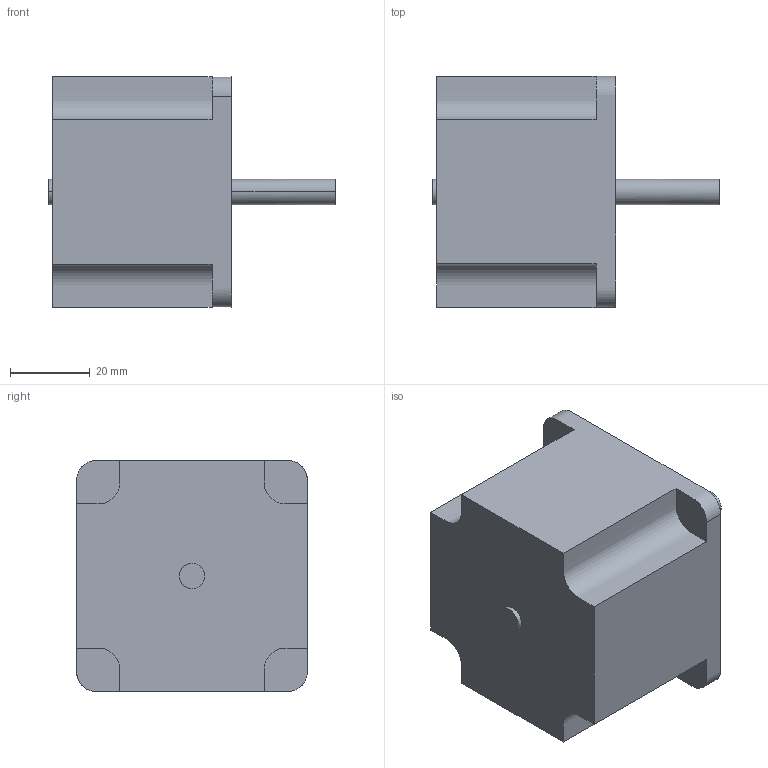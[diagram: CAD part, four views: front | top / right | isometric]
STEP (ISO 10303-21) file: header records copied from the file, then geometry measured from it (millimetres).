
FILE_DESCRIPTION(/* description */ (''),/* implementation_level */ '2;1');
FILE_NAME(/* name */ '6.y-drive#6.1#la-stpy',/* time_stamp */ '2014-12-01T20:13:58+01:00',/* author */ (''),/* organization */ (''),/* preprocessor_version */ 'ST-DEVELOPER v14',/* originating_system */ '',/* authorisation */ '');
FILE_SCHEMA (('AUTOMOTIVE_DESIGN'));
Length unit declared in the file: millimetre
Products named in the file (1): Document
Bounding box: 72 x 58 x 58 mm (x, y, z)
Volume: 134614.8 mm3; surface area: 17263.8 mm2
Topology: 1 solids, 1 shells, 18 faces, 42 edges, 28 vertices
Faces by surface type: bspline 10, plane 8
Entity records: 1801 total; most frequent: CARTESIAN_POINT 1234, B_SPLINE_CURVE_WITH_KNOTS 87, ORIENTED_EDGE 84, PCURVE 84, DEFINITIONAL_REPRESENTATION 84, SURFACE_CURVE 42, EDGE_CURVE 42, VERTEX_POINT 28
